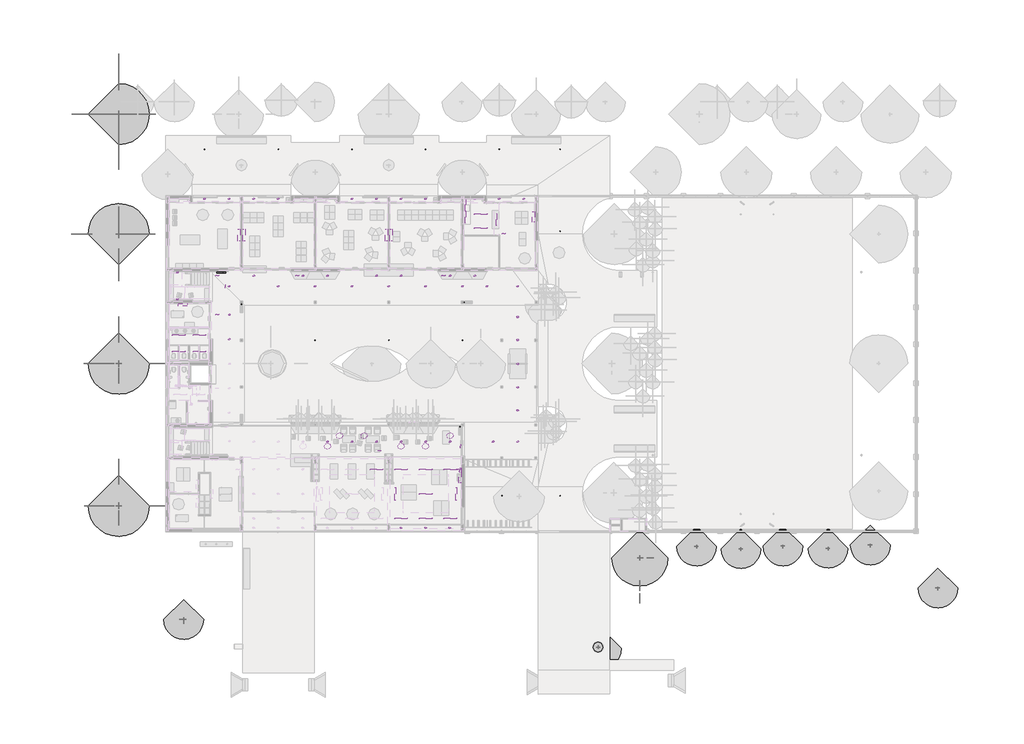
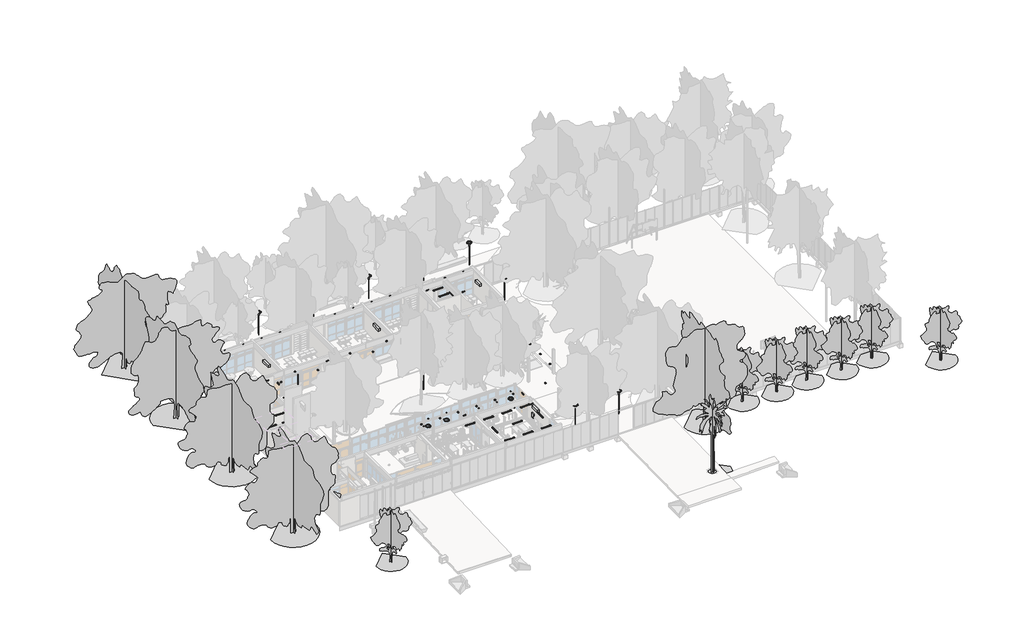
# One storey, part 20 of 22: 92 light fixtures, 14 proxies, 13 geographic elements, 3 pipe segments.
"""IFC4 building model written with IfcOpenShell, lengths in millimetres."""

from ifc_helpers import new_model, si_unit, point, frame_2d, origin, origin_with_axes, place, context, project, spatial, polyline, circle_curve, trimmed, segment, composite_curve, outline, extrude, transform, mapped, element, save
from components import proxy_40x40cm_5790892a, aa_unidad_interior_12_18_24_v2_12000btu_578df6c9, aa_unidad_interior_12_18_24_v2_18000btu_9be0fad3, aa_unidad_interior_12_18_24_v2_24000btu_6bd6a99b, pcb2_20x80x15_229f86ee, ti_40x60x12_73ea1888, tl_60x80x15_6a5c2496, geographic_element_bc3e9e51, geographic_element_78a4568a, geographic_element_5d79db10, geographic_element_9d816cce, l150_l150_8baf4198, l151_l151_e0f7dd01, l205_v1_l205_v1_696a9d75, l207_l207_1a914073, l207_l207_df287294, l251_l251_78c3c87a, l251_l251_36c0e2c3, l410_l410_d3af349a, l410_l410_19e1973c, l500_columna_led_l500_columna_led_6c9320cc, l500_columna_led_l500_columna_led_3afb5394, l508_muro_l508_muro_c32f3ad5

model = new_model("IFC4")

# Units and contexts
model_context = context("Model", 3, world=origin())
ifc_project = project(units=[si_unit("LENGTHUNIT", "METRE", prefix="MILLI")], contexts=[model_context])

# Site, building, storey
site = spatial("IfcSite", under=ifc_project)
building = spatial("IfcBuilding", under=site)
storey = spatial("IfcBuildingStorey", under=building, Name="PLanta baja", Elevation=0.0)

# Proxies
placement = place(None, origin())
element("IfcBuildingElementProxy", 1, Name="23-BAR-ZÓCALO DE BALDOSA H 70mm", ObjectType="23-BAR-ZÓCALO DE BALDOSA H 70mm", at=placement, inside=storey, context=model_context, shape_type="SweptSolid", body=[
    extrude(outline(polyline([(3413.7173694, 520.2304035), (3403.7173694, 510.2304035), (3403.7173694, 4919.6164813), (3413.7173694, 4919.6164813), (3413.7173694, 520.2304035)])), origin_with_axes(), (0.0, 0.0, 1.0), 70.0),
])
element("IfcBuildingElementProxy", 2, Name="23-BAR-ZÓCALO DE BALDOSA H 70mm", ObjectType="23-BAR-ZÓCALO DE BALDOSA H 70mm", at=placement, inside=storey, context=model_context, shape_type="SweptSolid", body=[
    extrude(outline(polyline([(5588.7173693, 520.2304035), (5588.7173693, 510.2304035), (3403.7173694, 510.2304035), (3413.7173694, 520.2304035), (5588.7173693, 520.2304035)])), origin_with_axes(), (0.0, 0.0, 1.0), 70.0),
])
element("IfcBuildingElementProxy", 3, Name="23-BAR-ZÓCALO DE EPS", ObjectType="23-BAR-ZÓCALO DE EPS", at=placement, inside=storey, context=model_context, shape_type="SweptSolid", body=[
    extrude(outline(polyline([(7198.7173693, 1842.2304035), (7198.7173693, 1835.2304035), (6788.7173693, 1835.2304035), (6788.7173693, 1842.2304035), (7198.7173693, 1842.2304035)])), origin_with_axes(), (0.0, 0.0, 1.0), 50.0),
])
proxy_40x40cm_shape = proxy_40x40cm_5790892a(model_context)
element("IfcBuildingElementProxy", 4, Name="Extractor en Muro : 40x40cm", ObjectType="Extractor en Muro : 40x40cm", at=placement, inside=storey, context=model_context, shape_type="MappedRepresentation", body=[
    mapped(proxy_40x40cm_shape, transform((32013.7173693, 31575.2304035, 580.0), x_axis=(1.0, 0.0, 0.0), y_axis=(0.0, 1.0, 0.0), z_axis=(0.0, 0.0, 1.0))),
])
aa_unidad_interior_12_18_24_v2_12000btu_shape = aa_unidad_interior_12_18_24_v2_12000btu_578df6c9(model_context)
element("IfcBuildingElementProxy", 5, Name="AA Unidad interior 12-18-24 V2 : 12000BTU", ObjectType="AA Unidad interior 12-18-24 V2 : 12000BTU", at=placement, inside=storey, context=model_context, shape_type="MappedRepresentation", body=[
    mapped(aa_unidad_interior_12_18_24_v2_12000btu_shape, transform((4703.7173693, 21605.2304035, 2300.0), x_axis=(1.0, 0.0, 0.0), y_axis=(0.0, 0.0, 1.0), z_axis=(0.0, -1.0, 0.0))),
])
aa_unidad_interior_12_18_24_v2_18000btu_shape = aa_unidad_interior_12_18_24_v2_18000btu_9be0fad3(model_context)
element("IfcBuildingElementProxy", 6, Name="AA Unidad interior 12-18-24 V2 : 18000BTU", ObjectType="AA Unidad interior 12-18-24 V2 : 18000BTU", at=placement, inside=storey, context=model_context, shape_type="MappedRepresentation", body=[
    mapped(aa_unidad_interior_12_18_24_v2_18000btu_shape, transform((37673.7173693, 29730.2304035, 2300.0), x_axis=(0.0, -1.0, 0.0), y_axis=(0.0, 0.0, 1.0), z_axis=(-1.0, 0.0, 0.0))),
])
aa_unidad_interior_12_18_24_v2_24000btu_shape = aa_unidad_interior_12_18_24_v2_24000btu_6bd6a99b(model_context)
element("IfcBuildingElementProxy", 7, Name="AA Unidad interior 12-18-24 V2 : 24000BTU", ObjectType="AA Unidad interior 12-18-24 V2 : 24000BTU", at=placement, inside=storey, context=model_context, shape_type="MappedRepresentation", body=[
    mapped(aa_unidad_interior_12_18_24_v2_24000btu_shape, transform((23888.7173694, 28020.2304035, 2300.0), x_axis=(0.0, 1.0, 0.0), y_axis=(0.0, 0.0, -1.0), z_axis=(-1.0, 0.0, 0.0))),
])
element("IfcBuildingElementProxy", 8, Name="AA Unidad interior 12-18-24 V2 : 24000BTU", ObjectType="AA Unidad interior 12-18-24 V2 : 24000BTU", at=placement, inside=storey, context=model_context, shape_type="MappedRepresentation", body=[
    mapped(aa_unidad_interior_12_18_24_v2_24000btu_shape, transform((24088.7173694, 28020.2304035, 2300.0), x_axis=(0.0, 1.0, 0.0), y_axis=(0.0, 0.0, 1.0), z_axis=(1.0, 0.0, 0.0))),
])
element("IfcBuildingElementProxy", 9, Name="AA Unidad interior 12-18-24 V2 : 24000BTU", ObjectType="AA Unidad interior 12-18-24 V2 : 24000BTU", at=placement, inside=storey, context=model_context, shape_type="MappedRepresentation", body=[
    mapped(aa_unidad_interior_12_18_24_v2_24000btu_shape, transform((10088.7173694, 28020.2304035, 2300.0), x_axis=(0.0, 1.0, 0.0), y_axis=(0.0, 0.0, -1.0), z_axis=(-1.0, 0.0, 0.0))),
])
element("IfcBuildingElementProxy", 10, Name="AA Unidad interior 12-18-24 V2 : 24000BTU", ObjectType="AA Unidad interior 12-18-24 V2 : 24000BTU", at=placement, inside=storey, context=model_context, shape_type="MappedRepresentation", body=[
    mapped(aa_unidad_interior_12_18_24_v2_24000btu_shape, transform((10288.7173694, 28020.2304035, 2300.0), x_axis=(0.0, 1.0, 0.0), y_axis=(0.0, 0.0, 1.0), z_axis=(1.0, 0.0, 0.0))),
])
element("IfcBuildingElementProxy", 11, Name="AA Unidad interior 12-18-24 V2 : 24000BTU", ObjectType="AA Unidad interior 12-18-24 V2 : 24000BTU", at=placement, inside=storey, context=model_context, shape_type="MappedRepresentation", body=[
    mapped(aa_unidad_interior_12_18_24_v2_24000btu_shape, transform((30773.7173693, 5368.5637368, 2800.0), x_axis=(0.0, -1.0, 0.0), y_axis=(0.0, 0.0, 1.0), z_axis=(-1.0, 0.0, 0.0))),
])
pcb2_20x80x15_shape = pcb2_20x80x15_229f86ee(model_context)
element("IfcBuildingElementProxy", 12, Name="TABLERO ELECTRICO DE SUPERFICIE : PCB2 20x80x15", ObjectType="TABLERO ELECTRICO DE SUPERFICIE : PCB2 20x80x15", at=placement, inside=storey, context=model_context, shape_type="MappedRepresentation", body=[
    mapped(pcb2_20x80x15_shape, transform((8596.7173694, 24610.2304035, 1805.0802124), x_axis=(-1.0, 0.0, 0.0), y_axis=(0.0, 0.0, -1.0), z_axis=(0.0, -1.0, 0.0))),
])
ti_40x60x12_shape = ti_40x60x12_73ea1888(model_context)
element("IfcBuildingElementProxy", 13, Name="TABLERO ELECTRICO DE SUPERFICIE : TI 40x60x12", ObjectType="TABLERO ELECTRICO DE SUPERFICIE : TI 40x60x12", at=placement, inside=storey, context=model_context, shape_type="MappedRepresentation", body=[
    mapped(ti_40x60x12_shape, transform((30773.7173693, 5986.2304035, 1800.0), x_axis=(0.0, -1.0, 0.0), y_axis=(0.0, 0.0, 1.0), z_axis=(-1.0, 0.0, 0.0))),
])
tl_60x80x15_shape = tl_60x80x15_6a5c2496(model_context)
element("IfcBuildingElementProxy", 14, Name="TABLERO ELECTRICO DE SUPERFICIE : TPB2 60x80x15", ObjectType="TABLERO ELECTRICO DE SUPERFICIE : TPB2 60x80x15", at=placement, inside=storey, context=model_context, shape_type="MappedRepresentation", body=[
    mapped(tl_60x80x15_shape, transform((8196.7173694, 24610.2304035, 1805.0802124), x_axis=(-1.0, 0.0, 0.0), y_axis=(0.0, 0.0, -1.0), z_axis=(0.0, -1.0, 0.0))),
])

# Geographic elements
geographic_element_shape = geographic_element_bc3e9e51(model_context)
element("IfcGeographicElement", 15, ObjectType="Vegetacion PAEMFE : CEIBO", at=placement, inside=storey, context=model_context, shape_type="MappedRepresentation", body=[
    mapped(geographic_element_shape, transform((47504.8739141, -2239.2695965, -52.0441489), x_axis=(1.0, 0.0, 0.0), y_axis=(0.0, 1.0, 0.0), z_axis=(0.0, 0.0, 1.0))),
])
geographic_element_2_shape = geographic_element_78a4568a(model_context)
element("IfcGeographicElement", 16, ObjectType="Vegetacion PAEMFE : TILO", at=placement, inside=storey, context=model_context, shape_type="MappedRepresentation", body=[
    mapped(geographic_element_2_shape, transform((-1311.2826307, 39370.2304035, -1169.4369836), x_axis=(0.0, 1.0, 0.0), y_axis=(-1.0, 0.0, 0.0), z_axis=(0.0, 0.0, 1.0))),
])
element("IfcGeographicElement", 17, ObjectType="Vegetacion PAEMFE : TILO", at=placement, inside=storey, context=model_context, shape_type="MappedRepresentation", body=[
    mapped(geographic_element_2_shape, transform((-1311.2826307, 28119.7304035, -995.4582047), x_axis=(-1.0, 0.0, 0.0), y_axis=(0.0, -1.0, 0.0), z_axis=(0.0, 0.0, 1.0))),
])
element("IfcGeographicElement", 18, ObjectType="Vegetacion PAEMFE : TILO", at=placement, inside=storey, context=model_context, shape_type="MappedRepresentation", body=[
    mapped(geographic_element_2_shape, transform((-1311.2826307, 15970.2304035, -783.8531545), x_axis=(1.0, 0.0, 0.0), y_axis=(0.0, 1.0, 0.0), z_axis=(0.0, 0.0, 1.0))),
])
element("IfcGeographicElement", 19, ObjectType="Vegetacion PAEMFE : TILO", at=placement, inside=storey, context=model_context, shape_type="MappedRepresentation", body=[
    mapped(geographic_element_2_shape, transform((-1311.2826307, 2647.3480506, -766.7604192), x_axis=(1.0, 0.0, 0.0), y_axis=(0.0, 1.0, 0.0), z_axis=(0.0, 0.0, 1.0))),
])
geographic_element_3_shape = geographic_element_5d79db10(model_context)
element("IfcGeographicElement", 20, ObjectType="Vegetacion PAEMFE : CIRUELO DE JARDIN", at=placement, inside=storey, context=model_context, shape_type="MappedRepresentation", body=[
    mapped(geographic_element_3_shape, transform((56978.7173693, -1369.7695965, -50.5), x_axis=(1.0, 0.0, 0.0), y_axis=(0.0, 1.0, 0.0), z_axis=(0.0, 0.0, 1.0))),
])
element("IfcGeographicElement", 21, ObjectType="Vegetacion PAEMFE : CIRUELO DE JARDIN", at=placement, inside=storey, context=model_context, shape_type="MappedRepresentation", body=[
    mapped(geographic_element_3_shape, transform((65138.7173693, -1329.7695965, -50.5), x_axis=(1.0, 0.0, 0.0), y_axis=(0.0, 1.0, 0.0), z_axis=(0.0, 0.0, 1.0))),
])
element("IfcGeographicElement", 22, ObjectType="Vegetacion PAEMFE : CIRUELO DE JARDIN", at=placement, inside=storey, context=model_context, shape_type="MappedRepresentation", body=[
    mapped(geographic_element_3_shape, transform((69098.7173693, -1029.7695965, -50.4775089), x_axis=(1.0, 0.0, 0.0), y_axis=(0.0, 1.0, 0.0), z_axis=(0.0, 0.0, 1.0))),
])
element("IfcGeographicElement", 23, ObjectType="Vegetacion PAEMFE : CIRUELO DE JARDIN", at=placement, inside=storey, context=model_context, shape_type="MappedRepresentation", body=[
    mapped(geographic_element_3_shape, transform((52819.7931966, -1142.6990949, -50.5), x_axis=(1.0, 0.0, 0.0), y_axis=(0.0, 1.0, 0.0), z_axis=(0.0, 0.0, 1.0))),
])
element("IfcGeographicElement", 24, ObjectType="Vegetacion PAEMFE : CIRUELO DE JARDIN", at=placement, inside=storey, context=model_context, shape_type="MappedRepresentation", body=[
    mapped(geographic_element_3_shape, transform((60918.7173693, -1129.7695965, -50.5), x_axis=(1.0, 0.0, 0.0), y_axis=(0.0, 1.0, 0.0), z_axis=(0.0, 0.0, 1.0))),
])
element("IfcGeographicElement", 25, ObjectType="Vegetacion PAEMFE : CIRUELO DE JARDIN", at=placement, inside=storey, context=model_context, shape_type="MappedRepresentation", body=[
    mapped(geographic_element_3_shape, transform((75430.9725941, -5056.2681393, -85.5484581), x_axis=(1.0, 0.0, 0.0), y_axis=(0.0, 1.0, 0.0), z_axis=(0.0, 0.0, 1.0))),
])
geographic_element_4_shape = geographic_element_9d816cce(model_context)
element("IfcGeographicElement", 26, ObjectType="Vegetacion PAEMFE : EXISTENTE A MANTENER", at=placement, inside=storey, context=model_context, shape_type="MappedRepresentation", body=[
    mapped(geographic_element_4_shape, transform((43602.7825237, -10633.5413867, -411.9344648), x_axis=(1.0, 0.0, 0.0), y_axis=(0.0, 1.0, 0.0), z_axis=(0.0, 0.0, 1.0))),
])
element("IfcGeographicElement", 27, ObjectType="Vegetacion PAEMFE : EXISTENTE A MANTENER 2", at=placement, inside=storey, context=model_context, shape_type="MappedRepresentation", body=[
    mapped(geographic_element_3_shape, transform((4775.6749965, -8015.8428703, -300.0), x_axis=(1.0, 0.0, 0.0), y_axis=(0.0, 1.0, 0.0), z_axis=(0.0, 0.0, 1.0))),
])

# Light fixtures
l150_l150_shape = l150_l150_8baf4198(model_context)
element("IfcLightFixture", 28, ObjectType="L150 : L150", at=placement, inside=storey, context=model_context, shape_type="MappedRepresentation", body=[
    mapped(l150_l150_shape, transform((30703.7173693, 8255.2304035, 3100.0), x_axis=(0.0, -1.0, 0.0), y_axis=(-1.0, 0.0, 0.0), z_axis=(0.0, 0.0, -1.0))),
])
element("IfcLightFixture", 29, ObjectType="L150 : L150", at=placement, inside=storey, context=model_context, shape_type="MappedRepresentation", body=[
    mapped(l150_l150_shape, transform((8668.7173693, 23220.2304035, 3100.0), x_axis=(0.0, -1.0, 0.0), y_axis=(-1.0, 0.0, 0.0), z_axis=(0.0, 0.0, -1.0))),
])
l151_l151_shape = l151_l151_e0f7dd01(model_context)
element("IfcLightFixture", 30, ObjectType="L151 : L151", at=placement, inside=storey, context=model_context, shape_type="MappedRepresentation", body=[
    mapped(l151_l151_shape, transform((23145.430226, 7819.2756222, 3100.0), x_axis=(0.0, -1.0, 0.0), y_axis=(-1.0, 0.0, 0.0), z_axis=(0.0, 0.0, -1.0))),
])
element("IfcLightFixture", 31, ObjectType="L151 : L151", at=placement, inside=storey, context=model_context, shape_type="MappedRepresentation", body=[
    mapped(l151_l151_shape, transform((30579.3519916, 6068.5637368, 3100.0), x_axis=(0.0, -1.0, 0.0), y_axis=(-1.0, 0.0, 0.0), z_axis=(0.0, 0.0, -1.0))),
])
element("IfcLightFixture", 32, ObjectType="L151 : L151", at=placement, inside=storey, context=model_context, shape_type="MappedRepresentation", body=[
    mapped(l151_l151_shape, transform((7913.7173694, 20565.2304035, 3100.0), x_axis=(0.0, -1.0, 0.0), y_axis=(-1.0, 0.0, 0.0), z_axis=(0.0, 0.0, -1.0))),
])
element("IfcLightFixture", 33, ObjectType="L151 : L151", at=placement, inside=storey, context=model_context, shape_type="MappedRepresentation", body=[
    mapped(l151_l151_shape, transform((7913.7173694, 24220.2304035, 3100.0), x_axis=(0.0, -1.0, 0.0), y_axis=(-1.0, 0.0, 0.0), z_axis=(0.0, 0.0, -1.0))),
])
element("IfcLightFixture", 34, ObjectType="L151 : L151", at=placement, inside=storey, context=model_context, shape_type="MappedRepresentation", body=[
    mapped(l151_l151_shape, transform((15413.7173694, 24220.2304035, 3100.0), x_axis=(0.0, -1.0, 0.0), y_axis=(-1.0, 0.0, 0.0), z_axis=(0.0, 0.0, -1.0))),
])
element("IfcLightFixture", 35, ObjectType="L151 : L151", at=placement, inside=storey, context=model_context, shape_type="MappedRepresentation", body=[
    mapped(l151_l151_shape, transform((29113.7173694, 24220.2304035, 3100.0), x_axis=(0.0, -1.0, 0.0), y_axis=(-1.0, 0.0, 0.0), z_axis=(0.0, 0.0, -1.0))),
])
element("IfcLightFixture", 36, ObjectType="L151 : L151", at=placement, inside=storey, context=model_context, shape_type="MappedRepresentation", body=[
    mapped(l151_l151_shape, transform((34751.1728627, 28170.2304035, 3100.0), x_axis=(0.0, -1.0, 0.0), y_axis=(-1.0, 0.0, 0.0), z_axis=(0.0, 0.0, -1.0))),
])
l205_v1_l205_v1_shape = l205_v1_l205_v1_696a9d75(model_context)
element("IfcLightFixture", 37, ObjectType="L205 v1 : L205 v1", at=placement, inside=storey, context=model_context, shape_type="MappedRepresentation", body=[
    mapped(l205_v1_l205_v1_shape, transform((18238.7173694, 8220.2304035, 0.0), x_axis=(1.0, 0.0, 0.0), y_axis=(0.0, 1.0, 0.0), z_axis=(0.0, 0.0, 1.0))),
])
element("IfcLightFixture", 38, ObjectType="L205 v1 : L205 v1", at=placement, inside=storey, context=model_context, shape_type="MappedRepresentation", body=[
    mapped(l205_v1_l205_v1_shape, transform((19388.7173694, 9220.2304035, 0.0), x_axis=(1.0, 0.0, 0.0), y_axis=(0.0, 1.0, 0.0), z_axis=(0.0, 0.0, 1.0))),
])
element("IfcLightFixture", 39, ObjectType="L205 v1 : L205 v1", at=placement, inside=storey, context=model_context, shape_type="MappedRepresentation", body=[
    mapped(l205_v1_l205_v1_shape, transform((21688.7173694, 9220.2304035, 0.0), x_axis=(1.0, 0.0, 0.0), y_axis=(0.0, 1.0, 0.0), z_axis=(0.0, 0.0, 1.0))),
])
element("IfcLightFixture", 40, ObjectType="L205 v1 : L205 v1", at=placement, inside=storey, context=model_context, shape_type="MappedRepresentation", body=[
    mapped(l205_v1_l205_v1_shape, transform((25138.7173693, 8220.2304035, 0.0), x_axis=(1.0, 0.0, 0.0), y_axis=(0.0, 1.0, 0.0), z_axis=(0.0, 0.0, 1.0))),
])
element("IfcLightFixture", 41, ObjectType="L205 v1 : L205 v1", at=placement, inside=storey, context=model_context, shape_type="MappedRepresentation", body=[
    mapped(l205_v1_l205_v1_shape, transform((27438.7173694, 8220.2304035, 0.0), x_axis=(1.0, 0.0, 0.0), y_axis=(0.0, 1.0, 0.0), z_axis=(0.0, 0.0, 1.0))),
])
element("IfcLightFixture", 42, ObjectType="L205 v1 : L205 v1", at=placement, inside=storey, context=model_context, shape_type="MappedRepresentation", body=[
    mapped(l205_v1_l205_v1_shape, transform((29738.7173693, 9220.2304035, 0.0), x_axis=(1.0, 0.0, 0.0), y_axis=(0.0, 1.0, 0.0), z_axis=(0.0, 0.0, 1.0))),
])
l207_l207_shape = l207_l207_1a914073(model_context)
element("IfcLightFixture", 43, ObjectType="L207 : L207", at=placement, inside=storey, context=model_context, shape_type="MappedRepresentation", body=[
    mapped(l207_l207_shape, transform((9038.7173693, 23220.2304035, 100.0), x_axis=(1.0, 0.0, 0.0), y_axis=(0.0, 1.0, 0.0), z_axis=(0.0, 0.0, 1.0))),
])
element("IfcLightFixture", 44, ObjectType="L207 : L207", at=placement, inside=storey, context=model_context, shape_type="MappedRepresentation", body=[
    mapped(l207_l207_shape, transform((13638.7173693, 23220.2304035, 100.0), x_axis=(1.0, 0.0, 0.0), y_axis=(0.0, 1.0, 0.0), z_axis=(0.0, 0.0, 1.0))),
])
element("IfcLightFixture", 45, ObjectType="L207 : L207", at=placement, inside=storey, context=model_context, shape_type="MappedRepresentation", body=[
    mapped(l207_l207_shape, transform((17088.7173694, 23220.2304035, 100.0), x_axis=(1.0, 0.0, 0.0), y_axis=(0.0, 1.0, 0.0), z_axis=(0.0, 0.0, 1.0))),
])
element("IfcLightFixture", 46, ObjectType="L207 : L207", at=placement, inside=storey, context=model_context, shape_type="MappedRepresentation", body=[
    mapped(l207_l207_shape, transform((20538.7173694, 23220.2304035, 100.0), x_axis=(1.0, 0.0, 0.0), y_axis=(0.0, 1.0, 0.0), z_axis=(0.0, 0.0, 1.0))),
])
element("IfcLightFixture", 47, ObjectType="L207 : L207", at=placement, inside=storey, context=model_context, shape_type="MappedRepresentation", body=[
    mapped(l207_l207_shape, transform((23988.7173694, 23220.2304035, 100.0), x_axis=(1.0, 0.0, 0.0), y_axis=(0.0, 1.0, 0.0), z_axis=(0.0, 0.0, 1.0))),
])
element("IfcLightFixture", 48, ObjectType="L207 : L207", at=placement, inside=storey, context=model_context, shape_type="MappedRepresentation", body=[
    mapped(l207_l207_shape, transform((27438.7173693, 23220.2304035, 100.0), x_axis=(1.0, 0.0, 0.0), y_axis=(0.0, 1.0, 0.0), z_axis=(0.0, 0.0, 1.0))),
])
element("IfcLightFixture", 49, ObjectType="L207 : L207", at=placement, inside=storey, context=model_context, shape_type="MappedRepresentation", body=[
    mapped(l207_l207_shape, transform((30888.7173693, 23220.2304035, 100.0), x_axis=(1.0, 0.0, 0.0), y_axis=(0.0, 1.0, 0.0), z_axis=(0.0, 0.0, 1.0))),
])
element("IfcLightFixture", 50, ObjectType="L207 : L207", at=placement, inside=storey, context=model_context, shape_type="MappedRepresentation", body=[
    mapped(l207_l207_shape, transform((32038.7173693, 24220.2304035, 100.0), x_axis=(1.0, 0.0, 0.0), y_axis=(0.0, 1.0, 0.0), z_axis=(0.0, 0.0, 1.0))),
])
element("IfcLightFixture", 51, ObjectType="L207 : L207", at=placement, inside=storey, context=model_context, shape_type="MappedRepresentation", body=[
    mapped(l207_l207_shape, transform((29738.7173693, 24220.2304035, 100.0), x_axis=(1.0, 0.0, 0.0), y_axis=(0.0, 1.0, 0.0), z_axis=(0.0, 0.0, 1.0))),
])
element("IfcLightFixture", 52, ObjectType="L207 : L207", at=placement, inside=storey, context=model_context, shape_type="MappedRepresentation", body=[
    mapped(l207_l207_shape, transform((25138.7173693, 24220.2304035, 100.0), x_axis=(1.0, 0.0, 0.0), y_axis=(0.0, 1.0, 0.0), z_axis=(0.0, 0.0, 1.0))),
])
element("IfcLightFixture", 53, ObjectType="L207 : L207", at=placement, inside=storey, context=model_context, shape_type="MappedRepresentation", body=[
    mapped(l207_l207_shape, transform((22838.7173694, 24220.2304035, 100.0), x_axis=(1.0, 0.0, 0.0), y_axis=(0.0, 1.0, 0.0), z_axis=(0.0, 0.0, 1.0))),
])
element("IfcLightFixture", 54, ObjectType="L207 : L207", at=placement, inside=storey, context=model_context, shape_type="MappedRepresentation", body=[
    mapped(l207_l207_shape, transform((18238.7173694, 24220.2304035, 100.0), x_axis=(1.0, 0.0, 0.0), y_axis=(0.0, 1.0, 0.0), z_axis=(0.0, 0.0, 1.0))),
])
element("IfcLightFixture", 55, ObjectType="L207 : L207", at=placement, inside=storey, context=model_context, shape_type="MappedRepresentation", body=[
    mapped(l207_l207_shape, transform((15938.7173693, 24220.2304035, 100.0), x_axis=(1.0, 0.0, 0.0), y_axis=(0.0, 1.0, 0.0), z_axis=(0.0, 0.0, 1.0))),
])
element("IfcLightFixture", 56, ObjectType="L207 : L207", at=placement, inside=storey, context=model_context, shape_type="MappedRepresentation", body=[
    mapped(l207_l207_shape, transform((11338.7173693, 24220.2304035, 100.0), x_axis=(1.0, 0.0, 0.0), y_axis=(0.0, 1.0, 0.0), z_axis=(0.0, 0.0, 1.0))),
])
element("IfcLightFixture", 57, ObjectType="L207 : L207", at=placement, inside=storey, context=model_context, shape_type="MappedRepresentation", body=[
    mapped(l207_l207_shape, transform((33188.7173693, 23220.2304035, 100.0), x_axis=(1.0, 0.0, 0.0), y_axis=(0.0, 1.0, 0.0), z_axis=(0.0, 0.0, 1.0))),
])
element("IfcLightFixture", 58, ObjectType="L207 : L207", at=placement, inside=storey, context=model_context, shape_type="MappedRepresentation", body=[
    mapped(l207_l207_shape, transform((36063.7173693, 23220.2304035, 100.0), x_axis=(1.0, 0.0, 0.0), y_axis=(0.0, 1.0, 0.0), z_axis=(0.0, 0.0, 1.0))),
])
element("IfcLightFixture", 59, ObjectType="L207 : L207", at=placement, inside=storey, context=model_context, shape_type="MappedRepresentation", body=[
    mapped(l207_l207_shape, transform((36063.7173693, 18170.2304035, 100.7006455), x_axis=(1.0, 0.0, 0.0), y_axis=(0.0, 0.9999745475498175, -0.007134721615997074), z_axis=(0.0, 0.007134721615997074, 0.9999745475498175))),
])
element("IfcLightFixture", 60, ObjectType="L207 : L207", at=placement, inside=storey, context=model_context, shape_type="MappedRepresentation", body=[
    mapped(l207_l207_shape, transform((36063.7173693, 13770.2304035, 100.6582949), x_axis=(1.0, 0.0, 0.0), y_axis=(0.0, 0.9999772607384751, 0.006743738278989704), z_axis=(0.0, -0.006743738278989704, 0.9999772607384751))),
])
element("IfcLightFixture", 61, ObjectType="L207 : L207", at=placement, inside=storey, context=model_context, shape_type="MappedRepresentation", body=[
    mapped(l207_l207_shape, transform((36063.7173693, 15970.2304035, 100.6582949), x_axis=(1.0, 0.0, 0.0), y_axis=(0.0, 0.9999772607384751, 0.006743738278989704), z_axis=(0.0, -0.006743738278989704, 0.9999772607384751))),
])
element("IfcLightFixture", 62, ObjectType="L207 : L207", at=placement, inside=storey, context=model_context, shape_type="MappedRepresentation", body=[
    mapped(l207_l207_shape, transform((36063.7173693, 20370.2304035, 99.4336113), x_axis=(1.0, 0.0, 0.0), y_axis=(0.0, 0.9999725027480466, 0.007415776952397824), z_axis=(0.0, -0.007415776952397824, 0.9999725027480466))),
])
element("IfcLightFixture", 63, ObjectType="L207 : L207", at=placement, inside=storey, context=model_context, shape_type="MappedRepresentation", body=[
    mapped(l207_l207_shape, transform((9038.7173693, 18270.2304035, 100.0), x_axis=(1.0, 0.0, 0.0), y_axis=(0.0, 1.0, 0.0), z_axis=(0.0, 0.0, 1.0))),
])
element("IfcLightFixture", 64, ObjectType="L207 : L207", at=placement, inside=storey, context=model_context, shape_type="MappedRepresentation", body=[
    mapped(l207_l207_shape, transform((9038.7173693, 20570.2304035, 100.0), x_axis=(1.0, 0.0, 0.0), y_axis=(0.0, 1.0, 0.0), z_axis=(0.0, 0.0, 1.0))),
])
element("IfcLightFixture", 65, ObjectType="L207 : L207", at=placement, inside=storey, context=model_context, shape_type="MappedRepresentation", body=[
    mapped(l207_l207_shape, transform((36638.7173693, 31419.2304035, 100.0), x_axis=(1.0, 0.0, 0.0), y_axis=(0.0, 1.0, 0.0), z_axis=(0.0, 0.0, 1.0))),
])
element("IfcLightFixture", 66, ObjectType="L207 : L207", at=placement, inside=storey, context=model_context, shape_type="MappedRepresentation", body=[
    mapped(l207_l207_shape, transform((34338.7173693, 31419.2304035, 100.0), x_axis=(1.0, 0.0, 0.0), y_axis=(0.0, 1.0, 0.0), z_axis=(0.0, 0.0, 1.0))),
])
element("IfcLightFixture", 67, ObjectType="L207 : L207", at=placement, inside=storey, context=model_context, shape_type="MappedRepresentation", body=[
    mapped(l207_l207_shape, transform((13638.7173694, 31419.2304035, 100.0), x_axis=(1.0, 0.0, 0.0), y_axis=(0.0, 1.0, 0.0), z_axis=(0.0, 0.0, 1.0))),
])
element("IfcLightFixture", 68, ObjectType="L207 : L207", at=placement, inside=storey, context=model_context, shape_type="MappedRepresentation", body=[
    mapped(l207_l207_shape, transform((11338.7173694, 31419.2304035, 100.0), x_axis=(1.0, 0.0, 0.0), y_axis=(0.0, 1.0, 0.0), z_axis=(0.0, 0.0, 1.0))),
])
element("IfcLightFixture", 69, ObjectType="L207 : L207", at=placement, inside=storey, context=model_context, shape_type="MappedRepresentation", body=[
    mapped(l207_l207_shape, transform((29688.7173693, 582.7304035, 100.0), x_axis=(1.0, 0.0, 0.0), y_axis=(0.0, 1.0, 0.0), z_axis=(0.0, 0.0, 1.0))),
])
l207_l207_2_shape = l207_l207_df287294(model_context)
element("IfcLightFixture", 70, ObjectType="L207 : L207", at=placement, inside=storey, context=model_context, shape_type="MappedRepresentation", body=[
    mapped(l207_l207_2_shape, transform((36063.7173693, 11570.2304035, 100.2209527), x_axis=(1.0, 0.0, 0.0), y_axis=(0.0, 0.9999747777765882, -0.007102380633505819), z_axis=(0.0, 0.007102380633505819, 0.9999747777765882))),
])
element("IfcLightFixture", 71, ObjectType="L207 : L207", at=placement, inside=storey, context=model_context, shape_type="MappedRepresentation", body=[
    mapped(l207_l207_2_shape, transform((36063.7173693, 8670.2304035, 100.0), x_axis=(1.0, 0.0, 0.0), y_axis=(0.0, 1.0, 0.0), z_axis=(0.0, 0.0, 1.0))),
])
element("IfcLightFixture", 72, ObjectType="L207 : L207", at=placement, inside=storey, context=model_context, shape_type="MappedRepresentation", body=[
    mapped(l207_l207_2_shape, transform((33763.7173693, 8670.2304035, 135.5036929), x_axis=(1.0, 0.0, 0.0), y_axis=(0.0, 1.0, 0.0), z_axis=(0.0, 0.0, 1.0))),
])
element("IfcLightFixture", 73, ObjectType="L207 : L207", at=placement, inside=storey, context=model_context, shape_type="MappedRepresentation", body=[
    mapped(l207_l207_2_shape, transform((29738.7173693, 8670.2304035, 100.0), x_axis=(1.0, 0.0, 0.0), y_axis=(0.0, 1.0, 0.0), z_axis=(0.0, 0.0, 1.0))),
])
element("IfcLightFixture", 74, ObjectType="L207 : L207", at=placement, inside=storey, context=model_context, shape_type="MappedRepresentation", body=[
    mapped(l207_l207_2_shape, transform((27438.7173693, 8670.2304035, 100.0), x_axis=(1.0, 0.0, 0.0), y_axis=(0.0, 1.0, 0.0), z_axis=(0.0, 0.0, 1.0))),
])
element("IfcLightFixture", 75, ObjectType="L207 : L207", at=placement, inside=storey, context=model_context, shape_type="MappedRepresentation", body=[
    mapped(l207_l207_2_shape, transform((25138.7173693, 8670.2304035, 100.0), x_axis=(1.0, 0.0, 0.0), y_axis=(0.0, 1.0, 0.0), z_axis=(0.0, 0.0, 1.0))),
])
element("IfcLightFixture", 76, ObjectType="L207 : L207", at=placement, inside=storey, context=model_context, shape_type="MappedRepresentation", body=[
    mapped(l207_l207_2_shape, transform((22838.7173694, 8670.2304035, 100.0), x_axis=(1.0, 0.0, 0.0), y_axis=(0.0, 1.0, 0.0), z_axis=(0.0, 0.0, 1.0))),
])
element("IfcLightFixture", 77, ObjectType="L207 : L207", at=placement, inside=storey, context=model_context, shape_type="MappedRepresentation", body=[
    mapped(l207_l207_2_shape, transform((20538.7173694, 8670.2304035, 100.0), x_axis=(1.0, 0.0, 0.0), y_axis=(0.0, 1.0, 0.0), z_axis=(0.0, 0.0, 1.0))),
])
element("IfcLightFixture", 78, ObjectType="L207 : L207", at=placement, inside=storey, context=model_context, shape_type="MappedRepresentation", body=[
    mapped(l207_l207_2_shape, transform((18238.7173694, 8670.2304035, 100.0), x_axis=(1.0, 0.0, 0.0), y_axis=(0.0, 1.0, 0.0), z_axis=(0.0, 0.0, 1.0))),
])
element("IfcLightFixture", 79, ObjectType="L207 : L207", at=placement, inside=storey, context=model_context, shape_type="MappedRepresentation", body=[
    mapped(l207_l207_2_shape, transform((25138.7173693, 582.7304035, 100.0), x_axis=(1.0, 0.0, 0.0), y_axis=(0.0, 1.0, 0.0), z_axis=(0.0, 0.0, 1.0))),
])
element("IfcLightFixture", 80, ObjectType="L207 : L207", at=placement, inside=storey, context=model_context, shape_type="MappedRepresentation", body=[
    mapped(l207_l207_2_shape, transform((27438.7173693, 582.7304035, 100.0), x_axis=(1.0, 0.0, 0.0), y_axis=(0.0, 1.0, 0.0), z_axis=(0.0, 0.0, 1.0))),
])
element("IfcLightFixture", 81, ObjectType="L207 : L207", at=placement, inside=storey, context=model_context, shape_type="MappedRepresentation", body=[
    mapped(l207_l207_2_shape, transform((6738.7173694, 31419.2304035, 100.0), x_axis=(-1.0, 0.0, 0.0), y_axis=(0.0, -1.0, 0.0), z_axis=(0.0, 0.0, 1.0))),
])
element("IfcLightFixture", 82, ObjectType="L207 : L207", at=placement, inside=storey, context=model_context, shape_type="MappedRepresentation", body=[
    mapped(l207_l207_2_shape, transform((9038.7173693, 31419.2304035, 100.0), x_axis=(-1.0, 0.0, 0.0), y_axis=(0.0, -1.0, 0.0), z_axis=(0.0, 0.0, 1.0))),
])
element("IfcLightFixture", 83, ObjectType="L207 : L207", at=placement, inside=storey, context=model_context, shape_type="MappedRepresentation", body=[
    mapped(l207_l207_2_shape, transform((20543.7173694, 31419.2304035, 100.0), x_axis=(-1.0, 0.0, 0.0), y_axis=(0.0, -1.0, 0.0), z_axis=(0.0, 0.0, 1.0))),
])
element("IfcLightFixture", 84, ObjectType="L207 : L207", at=placement, inside=storey, context=model_context, shape_type="MappedRepresentation", body=[
    mapped(l207_l207_2_shape, transform((22838.7173694, 31419.2304035, 100.0), x_axis=(-1.0, 0.0, 0.0), y_axis=(0.0, -1.0, 0.0), z_axis=(0.0, 0.0, 1.0))),
])
element("IfcLightFixture", 85, ObjectType="L207 : L207", at=placement, inside=storey, context=model_context, shape_type="MappedRepresentation", body=[
    mapped(l207_l207_2_shape, transform((25138.7173693, 31419.2304035, 100.0), x_axis=(-1.0, 0.0, 0.0), y_axis=(0.0, -1.0, 0.0), z_axis=(0.0, 0.0, 1.0))),
])
element("IfcLightFixture", 86, ObjectType="L207 : L207", at=placement, inside=storey, context=model_context, shape_type="MappedRepresentation", body=[
    mapped(l207_l207_2_shape, transform((27438.7173693, 31419.2304035, 100.0), x_axis=(-1.0, 0.0, 0.0), y_axis=(0.0, -1.0, 0.0), z_axis=(0.0, 0.0, 1.0))),
])
l251_l251_shape = l251_l251_78c3c87a(model_context)
element("IfcLightFixture", 87, ObjectType="L251 : L251", at=placement, inside=storey, context=model_context, shape_type="MappedRepresentation", body=[
    mapped(l251_l251_shape, transform((4316.2173694, 18665.2304035, 1200.0), x_axis=(1.0, 0.0, 0.0), y_axis=(0.0, 1.0, 0.0), z_axis=(0.0, 0.0, 1.0))),
])
element("IfcLightFixture", 88, ObjectType="L251 : L251", at=placement, inside=storey, context=model_context, shape_type="MappedRepresentation", body=[
    mapped(l251_l251_shape, transform((4316.2173694, 17122.7304035, 1200.0), x_axis=(1.0, 0.0, 0.0), y_axis=(0.0, 1.0, 0.0), z_axis=(0.0, 0.0, 1.0))),
])
element("IfcLightFixture", 89, ObjectType="L251 : L251", at=placement, inside=storey, context=model_context, shape_type="MappedRepresentation", body=[
    mapped(l251_l251_shape, transform((32608.7173693, 29990.2304035, 1700.0), x_axis=(-1.0, 0.0, 0.0), y_axis=(0.0, -1.0, 0.0), z_axis=(0.0, 0.0, 1.0))),
])
element("IfcLightFixture", 90, ObjectType="L251 : L251", at=placement, inside=storey, context=model_context, shape_type="MappedRepresentation", body=[
    mapped(l251_l251_shape, transform((27440.2173693, 3768.5637368, 1710.0), x_axis=(1.0, 0.0, 0.0), y_axis=(0.0, 1.0, 0.0), z_axis=(0.0, 0.0, 1.0))),
])
element("IfcLightFixture", 91, ObjectType="L251 : L251", at=placement, inside=storey, context=model_context, shape_type="MappedRepresentation", body=[
    mapped(l251_l251_shape, transform((27440.2173693, 6068.5637368, 1710.0), x_axis=(1.0, 0.0, 0.0), y_axis=(0.0, 1.0, 0.0), z_axis=(0.0, 0.0, 1.0))),
])
element("IfcLightFixture", 92, ObjectType="L251 : L251", at=placement, inside=storey, context=model_context, shape_type="MappedRepresentation", body=[
    mapped(l251_l251_shape, transform((27440.2173693, 1468.5637368, 1710.0), x_axis=(1.0, 0.0, 0.0), y_axis=(0.0, 1.0, 0.0), z_axis=(0.0, 0.0, 1.0))),
])
element("IfcLightFixture", 93, ObjectType="L251 : L251", at=placement, inside=storey, context=model_context, shape_type="MappedRepresentation", body=[
    mapped(l251_l251_shape, transform((24582.7173693, 3768.5637368, 1710.0), x_axis=(0.0, 1.0, 0.0), y_axis=(-1.0, 0.0, 0.0), z_axis=(0.0, 0.0, 1.0))),
])
element("IfcLightFixture", 94, ObjectType="L251 : L251", at=placement, inside=storey, context=model_context, shape_type="MappedRepresentation", body=[
    mapped(l251_l251_shape, transform((25140.2173693, 6068.5637368, 1710.0), x_axis=(1.0, 0.0, 0.0), y_axis=(0.0, 1.0, 0.0), z_axis=(0.0, 0.0, 1.0))),
])
element("IfcLightFixture", 95, ObjectType="L251 : L251", at=placement, inside=storey, context=model_context, shape_type="MappedRepresentation", body=[
    mapped(l251_l251_shape, transform((25140.2173693, 1468.5637368, 1710.0), x_axis=(1.0, 0.0, 0.0), y_axis=(0.0, 1.0, 0.0), z_axis=(0.0, 0.0, 1.0))),
])
element("IfcLightFixture", 96, ObjectType="L251 : L251", at=placement, inside=storey, context=model_context, shape_type="MappedRepresentation", body=[
    mapped(l251_l251_shape, transform((30297.7173693, 3768.5637368, 1710.0), x_axis=(0.0, 1.0, 0.0), y_axis=(-1.0, 0.0, 0.0), z_axis=(0.0, 0.0, 1.0))),
])
element("IfcLightFixture", 97, ObjectType="L251 : L251", at=placement, inside=storey, context=model_context, shape_type="MappedRepresentation", body=[
    mapped(l251_l251_shape, transform((29740.2173693, 6068.5637368, 1710.0), x_axis=(1.0, 0.0, 0.0), y_axis=(0.0, 1.0, 0.0), z_axis=(0.0, 0.0, 1.0))),
])
element("IfcLightFixture", 98, ObjectType="L251 : L251", at=placement, inside=storey, context=model_context, shape_type="MappedRepresentation", body=[
    mapped(l251_l251_shape, transform((29740.2173693, 1468.5637368, 1710.0), x_axis=(1.0, 0.0, 0.0), y_axis=(0.0, 1.0, 0.0), z_axis=(0.0, 0.0, 1.0))),
])
element("IfcLightFixture", 99, ObjectType="L251 : L251", at=placement, inside=storey, context=model_context, shape_type="MappedRepresentation", body=[
    mapped(l251_l251_shape, transform((22840.2173693, 6068.5637368, 1710.0), x_axis=(1.0, 0.0, 0.0), y_axis=(0.0, 1.0, 0.0), z_axis=(0.0, 0.0, 1.0))),
])
element("IfcLightFixture", 100, ObjectType="L251 : L251", at=placement, inside=storey, context=model_context, shape_type="MappedRepresentation", body=[
    mapped(l251_l251_shape, transform((32608.7173693, 28690.2304035, 1700.0), x_axis=(-1.0, 0.0, 0.0), y_axis=(0.0, -1.0, 0.0), z_axis=(0.0, 0.0, 1.0))),
])
l251_l251_2_shape = l251_l251_36c0e2c3(model_context)
element("IfcLightFixture", 101, ObjectType="L251 : L251", at=placement, inside=storey, context=model_context, shape_type="MappedRepresentation", body=[
    mapped(l251_l251_2_shape, transform((6251.2173694, 18670.2304035, 1200.0), x_axis=(-1.0, 0.0, 0.0), y_axis=(0.0, -1.0, 0.0), z_axis=(0.0, 0.0, 1.0))),
])
element("IfcLightFixture", 102, ObjectType="L251 : L251", at=placement, inside=storey, context=model_context, shape_type="MappedRepresentation", body=[
    mapped(l251_l251_2_shape, transform((6251.2173694, 17122.7304035, 1200.0), x_axis=(-1.0, 0.0, 0.0), y_axis=(0.0, -1.0, 0.0), z_axis=(0.0, 0.0, 1.0))),
])
l410_l410_shape = l410_l410_d3af349a(model_context)
element("IfcLightFixture", 103, ObjectType="L410 : L410", at=placement, inside=storey, context=model_context, shape_type="MappedRepresentation", body=[
    mapped(l410_l410_shape, transform((31188.7173693, 30875.2304035, 0.0), x_axis=(0.0, 1.0, 0.0), y_axis=(-1.0, 0.0, 0.0), z_axis=(0.0, 0.0, 1.0))),
])
element("IfcLightFixture", 104, ObjectType="L410 : L410", at=placement, inside=storey, context=model_context, shape_type="MappedRepresentation", body=[
    mapped(l410_l410_shape, transform((31188.7173693, 29691.2272437, 0.0), x_axis=(0.0, 1.0, 0.0), y_axis=(-1.0, 0.0, 0.0), z_axis=(0.0, 0.0, 1.0))),
])
l410_l410_2_shape = l410_l410_19e1973c(model_context)
element("IfcLightFixture", 105, ObjectType="L410 : L410", at=placement, inside=storey, context=model_context, shape_type="MappedRepresentation", body=[
    mapped(l410_l410_2_shape, transform((34068.7173693, 29460.2304035, -500.0), x_axis=(0.0, 1.0, 0.0), y_axis=(-1.0, 0.0, 0.0), z_axis=(0.0, 0.0, 1.0))),
])
l500_columna_led_l500_columna_led_shape = l500_columna_led_l500_columna_led_6c9320cc(model_context)
element("IfcLightFixture", 106, ObjectType="L500 columna led : L500 columna led", at=placement, inside=storey, context=model_context, shape_type="MappedRepresentation", body=[
    mapped(l500_columna_led_l500_columna_led_shape, transform((17088.7173694, 18170.2304035, -46.069561), x_axis=(1.0, 0.0, 0.0), y_axis=(0.0, 1.0, 0.0), z_axis=(0.0, 0.0, 1.0))),
])
element("IfcLightFixture", 107, ObjectType="L500 columna led : L500 columna led", at=placement, inside=storey, context=model_context, shape_type="MappedRepresentation", body=[
    mapped(l500_columna_led_l500_columna_led_shape, transform((23988.7173694, 18170.2304035, -30.0), x_axis=(1.0, 0.0, 0.0), y_axis=(0.0, 1.0, 0.0), z_axis=(0.0, 0.0, 1.0))),
])
element("IfcLightFixture", 108, ObjectType="L500 columna led : L500 columna led", at=placement, inside=storey, context=model_context, shape_type="MappedRepresentation", body=[
    mapped(l500_columna_led_l500_columna_led_shape, transform((30888.7173693, 18170.2304035, -40.355367), x_axis=(1.0, 0.0, 0.0), y_axis=(0.0, 1.0, 0.0), z_axis=(0.0, 0.0, 1.0))),
])
element("IfcLightFixture", 109, ObjectType="L500 columna led : L500 columna led", at=placement, inside=storey, context=model_context, shape_type="MappedRepresentation", body=[
    mapped(l500_columna_led_l500_columna_led_shape, transform((6738.7173693, 36069.2217322, -50.0), x_axis=(1.0, 0.0, 0.0), y_axis=(0.0, 1.0, 0.0), z_axis=(0.0, 0.0, 1.0))),
])
element("IfcLightFixture", 110, ObjectType="L500 columna led : L500 columna led", at=placement, inside=storey, context=model_context, shape_type="MappedRepresentation", body=[
    mapped(l500_columna_led_l500_columna_led_shape, transform((20538.7765713, 36069.2217322, -50.0), x_axis=(1.0, 0.0, 0.0), y_axis=(0.0, 1.0, 0.0), z_axis=(0.0, 0.0, 1.0))),
])
element("IfcLightFixture", 111, ObjectType="L500 columna led : L500 columna led", at=placement, inside=storey, context=model_context, shape_type="MappedRepresentation", body=[
    mapped(l500_columna_led_l500_columna_led_shape, transform((34338.7173693, 36069.2217322, -50.0), x_axis=(1.0, 0.0, 0.0), y_axis=(0.0, 1.0, 0.0), z_axis=(0.0, 0.0, 1.0))),
])
element("IfcLightFixture", 112, ObjectType="L500 columna led : L500 columna led", at=placement, inside=storey, context=model_context, shape_type="MappedRepresentation", body=[
    mapped(l500_columna_led_l500_columna_led_shape, transform((34588.7173693, 3590.2304035, 0.0), x_axis=(1.0, 0.0, 0.0), y_axis=(0.0, 1.0, 0.0), z_axis=(0.0, 0.0, 1.0))),
])
element("IfcLightFixture", 113, ObjectType="L500 columna led : L500 columna led", at=placement, inside=storey, context=model_context, shape_type="MappedRepresentation", body=[
    mapped(l500_columna_led_l500_columna_led_shape, transform((40049.3886605, 3590.2304035, -50.0), x_axis=(1.0, 0.0, 0.0), y_axis=(0.0, 1.0, 0.0), z_axis=(0.0, 0.0, 1.0))),
])
element("IfcLightFixture", 114, ObjectType="L500 columna led : L500 columna led", at=placement, inside=storey, context=model_context, shape_type="MappedRepresentation", body=[
    mapped(l500_columna_led_l500_columna_led_shape, transform((40049.3886605, 28390.2304035, -50.0), x_axis=(1.0, 0.0, 0.0), y_axis=(0.0, 1.0, 0.0), z_axis=(0.0, 0.0, 1.0))),
])
l500_columna_led_l500_columna_led_2_shape = l500_columna_led_l500_columna_led_3afb5394(model_context)
element("IfcLightFixture", 115, ObjectType="L500 columna led : L500 columna led", at=placement, inside=storey, context=model_context, shape_type="MappedRepresentation", body=[
    mapped(l500_columna_led_l500_columna_led_2_shape, transform((13638.7173694, 36069.2217322, -50.0), x_axis=(-1.0, 0.0, 0.0), y_axis=(0.0, -1.0, 0.0), z_axis=(0.0, 0.0, 1.0))),
])
element("IfcLightFixture", 116, ObjectType="L500 columna led : L500 columna led", at=placement, inside=storey, context=model_context, shape_type="MappedRepresentation", body=[
    mapped(l500_columna_led_l500_columna_led_2_shape, transform((27438.7173693, 36069.2217322, -50.0), x_axis=(-1.0, 0.0, 0.0), y_axis=(0.0, -1.0, 0.0), z_axis=(0.0, 0.0, 1.0))),
])
element("IfcLightFixture", 117, ObjectType="L500 columna led : L500 columna led", at=placement, inside=storey, context=model_context, shape_type="MappedRepresentation", body=[
    mapped(l500_columna_led_l500_columna_led_2_shape, transform((40049.3886605, 36069.2217322, -50.0), x_axis=(-1.0, 0.0, 0.0), y_axis=(0.0, -1.0, 0.0), z_axis=(0.0, 0.0, 1.0))),
])
l508_muro_l508_muro_shape = l508_muro_l508_muro_c32f3ad5(model_context)
element("IfcLightFixture", 118, ObjectType="L508 Muro : L508 Muro", at=placement, inside=storey, context=model_context, shape_type="MappedRepresentation", body=[
    mapped(l508_muro_l508_muro_shape, transform((4063.7173693, 21767.7304035, -520.0), x_axis=(1.0, 0.0, 0.0), y_axis=(0.0, 1.0, 0.0), z_axis=(0.0, 0.0, 1.0))),
])
element("IfcLightFixture", 119, ObjectType="L508 Muro : L508 Muro", at=placement, inside=storey, context=model_context, shape_type="MappedRepresentation", body=[
    mapped(l508_muro_l508_muro_shape, transform((4313.7173693, 24772.7304035, -520.0), x_axis=(-1.0, 0.0, 0.0), y_axis=(0.0, -1.0, 0.0), z_axis=(0.0, 0.0, 1.0))),
])

# Pipe segments
element("IfcPipeSegment", 120, ObjectType="Por defecto", at=placement, inside=storey, context=model_context, shape_type="SweptSolid", body=[
    extrude(outline(composite_curve([segment(trimmed(circle_curve(frame_2d((10188.7173694, 21537.6902591)), 30.1625), [point((10158.5548694, 21537.6902591))], [point((10188.7173694, 21567.8527591))], False, "CARTESIAN"), True, "CONTINUOUS"), segment(trimmed(circle_curve(frame_2d((10188.7173694, 21537.6902591)), 30.1625), [point((10188.7173694, 21567.8527591))], [point((10218.8798694, 21537.6902591))], False, "CARTESIAN"), True, "CONTINUOUS"), segment(trimmed(circle_curve(frame_2d((10188.7173694, 21537.6902591)), 30.1625), [point((10218.8798694, 21537.6902591))], [point((10188.7173694, 21507.5277591))], False, "CARTESIAN"), True, "CONTINUOUS"), segment(trimmed(circle_curve(frame_2d((10188.7173694, 21537.6902591)), 30.1625), [point((10188.7173694, 21507.5277591))], [point((10158.5548694, 21537.6902591))], False, "CARTESIAN"), True, "CONTINUOUS")], self_intersect=False)), origin_with_axes(), (0.0, 0.0, 1.0), 4720.0),
])
element("IfcPipeSegment", 121, ObjectType="Por defecto", at=placement, inside=storey, context=model_context, shape_type="SweptSolid", body=[
    extrude(outline(composite_curve([segment(trimmed(circle_curve(frame_2d((31042.4997239, 21722.4125054)), 30.1625), [point((31012.3372239, 21722.4125054))], [point((31042.4997239, 21752.5750054))], False, "CARTESIAN"), True, "CONTINUOUS"), segment(trimmed(circle_curve(frame_2d((31042.4997239, 21722.4125054)), 30.1625), [point((31042.4997239, 21752.5750054))], [point((31072.6622239, 21722.4125054))], False, "CARTESIAN"), True, "CONTINUOUS"), segment(trimmed(circle_curve(frame_2d((31042.4997239, 21722.4125054)), 30.1625), [point((31072.6622239, 21722.4125054))], [point((31042.4997239, 21692.2500054))], False, "CARTESIAN"), True, "CONTINUOUS"), segment(trimmed(circle_curve(frame_2d((31042.4997239, 21722.4125054)), 30.1625), [point((31042.4997239, 21692.2500054))], [point((31012.3372239, 21722.4125054))], False, "CARTESIAN"), True, "CONTINUOUS")], self_intersect=False)), origin_with_axes(), (0.0, 0.0, 1.0), 4660.0),
])
element("IfcPipeSegment", 122, ObjectType="Por defecto", at=placement, inside=storey, context=model_context, shape_type="SweptSolid", body=[
    extrude(outline(composite_curve([segment(trimmed(circle_curve(frame_2d((30666.2173693, 10042.7304035)), 30.1625), [point((30636.0548693, 10042.7304035))], [point((30666.2173693, 10072.8929035))], False, "CARTESIAN"), True, "CONTINUOUS"), segment(trimmed(circle_curve(frame_2d((30666.2173693, 10042.7304035)), 30.1625), [point((30666.2173693, 10072.8929035))], [point((30696.3798693, 10042.7304035))], False, "CARTESIAN"), True, "CONTINUOUS"), segment(trimmed(circle_curve(frame_2d((30666.2173693, 10042.7304035)), 30.1625), [point((30696.3798693, 10042.7304035))], [point((30666.2173693, 10012.5679035))], False, "CARTESIAN"), True, "CONTINUOUS"), segment(trimmed(circle_curve(frame_2d((30666.2173693, 10042.7304035)), 30.1625), [point((30666.2173693, 10012.5679035))], [point((30636.0548693, 10042.7304035))], False, "CARTESIAN"), True, "CONTINUOUS")], self_intersect=False)), origin_with_axes(), (0.0, 0.0, 1.0), 1100.0),
])

save(model, "model.ifc")
